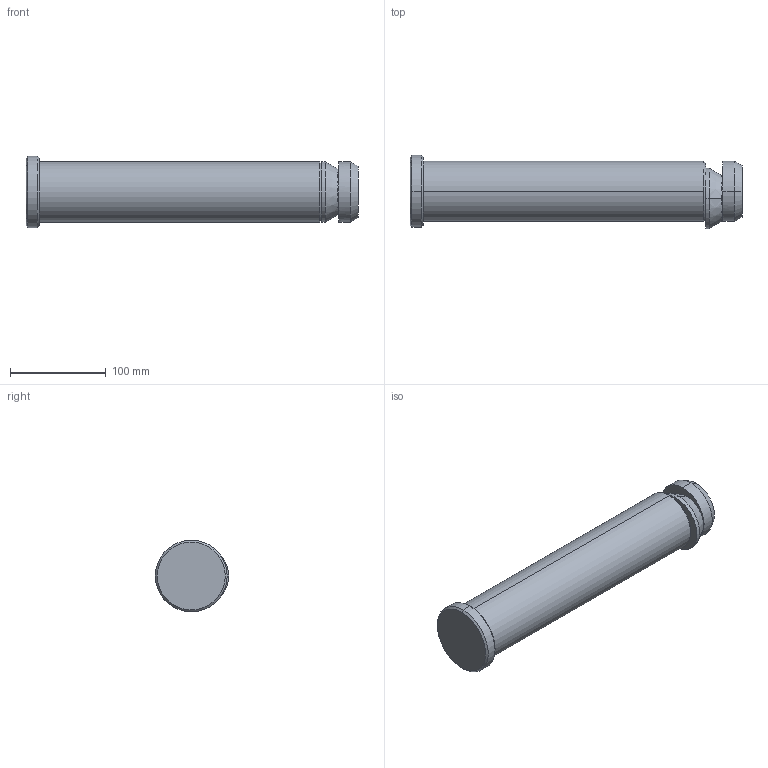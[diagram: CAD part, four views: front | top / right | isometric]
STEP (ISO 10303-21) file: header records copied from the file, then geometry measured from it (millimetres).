
FILE_DESCRIPTION(('CATIA V5 STEP Exchange'),'2;1');
FILE_NAME('C:\Users\Raffaele\Desktop\3D X SITO CF\PERNI -STAFFE SOLLEVAMENTO\395A\GSB_OILLESS_C10309063347\STEP-2.03\395A-063-347.stp','2019-07-02T14:49:26+00:00',('none'),('none'),'CATIA Version 5 Release 20 GA (IN-10)','CATIA V5 STEP AP203','none');
FILE_SCHEMA(('CONFIG_CONTROL_DESIGN'));
Length unit declared in the file: millimetre
Products named in the file (1): 395A-063-347
Bounding box: 347 x 76.5 x 75 mm (x, y, z)
Volume: 1083508.2 mm3; surface area: 82016.9 mm2
Topology: 1 solids, 1 shells, 43 faces, 124 edges, 88 vertices
Faces by surface type: cylinder 20, plane 13, cone 10
Entity records: 1694 total; most frequent: CARTESIAN_POINT 538, ORIENTED_EDGE 248, DIRECTION 192, EDGE_CURVE 124, AXIS2_PLACEMENT_3D 112, VERTEX_POINT 88, CIRCLE 68, EDGE_LOOP 48
